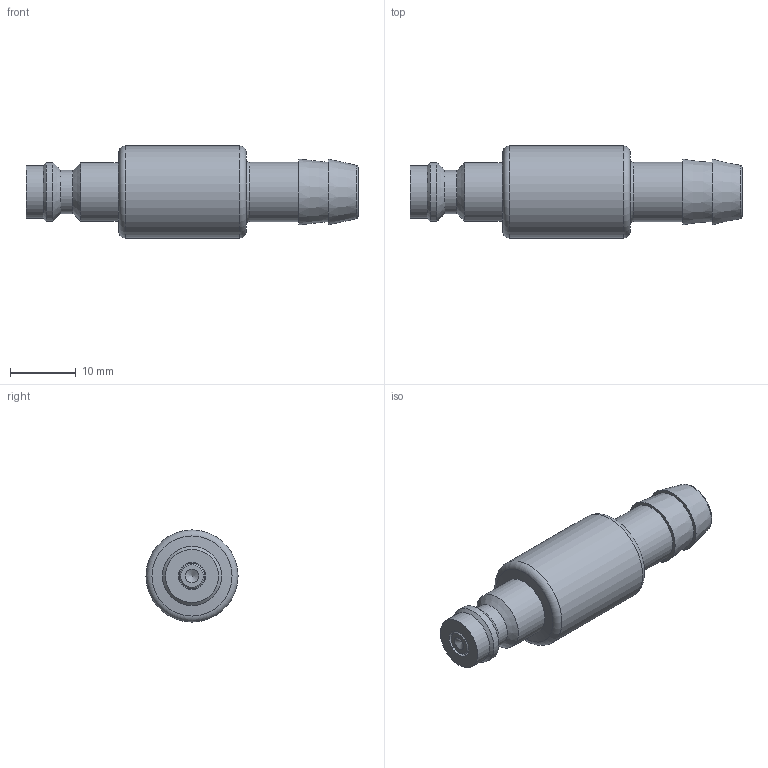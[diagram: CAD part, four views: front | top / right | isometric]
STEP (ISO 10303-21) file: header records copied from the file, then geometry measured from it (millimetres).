
FILE_DESCRIPTION(/* description */ (''),/* implementation_level */ '2;1');
FILE_NAME(/* name */ 'H:\cad\neutral\3d\72556\kss_9_nw5_ba.stp',/* time_stamp */ '2017-11-20T11:41:01+01:00',/* author */ ('Hamoud'),/* organization */ (''),/* preprocessor_version */ 'ST-DEVELOPER v15.6',/* originating_system */ 'Autodesk Inventor LT ',/* authorisation */ '');
FILE_SCHEMA (('AUTOMOTIVE_DESIGN { 1 0 10303 214 3 1 1 }'));
Length unit declared in the file: millimetre
Products named in the file (1): kss_9_nw5_ba
Bounding box: 50.5 x 14 x 14 mm (x, y, z)
Volume: 3912.9 mm3; surface area: 2660.3 mm2
Topology: 1 solids, 1 shells, 32 faces, 57 edges, 34 vertices
Faces by surface type: cylinder 11, plane 9, cone 8, torus 4
Full cylindrical faces by diameter (mm): 2 x1, 3.8 x1, 4.2 x2, 6.6 x1, 7 x1, 8.05 x1, 8.96 x2, 9 x1, 14 x1
Entity records: 690 total; most frequent: DIRECTION 128, CARTESIAN_POINT 95, AXIS2_PLACEMENT_3D 64, EDGE_LOOP 62, ORIENTED_EDGE 62, FACE_OUTER_BOUND 32, ADVANCED_FACE 32, CIRCLE 31
